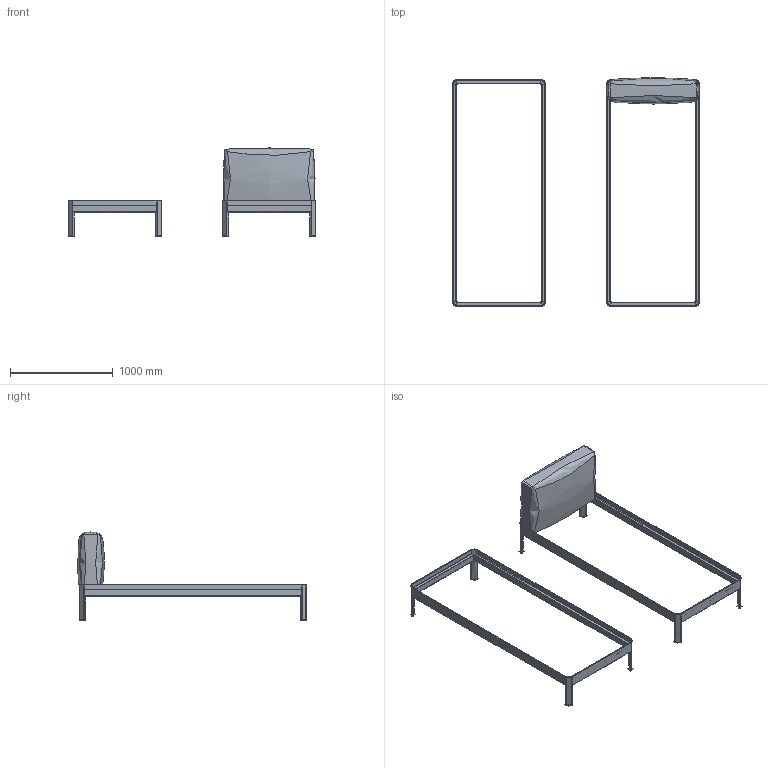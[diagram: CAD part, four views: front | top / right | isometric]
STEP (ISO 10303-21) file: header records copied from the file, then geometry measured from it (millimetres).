
FILE_DESCRIPTION(/* description */ (''),/* implementation_level */ '2;1');
FILE_NAME(/* name */ 'Heia_90x220',/* time_stamp */ '2025-10-15T11:12:45+02:00',/* author */ (''),/* organization */ (''),/* preprocessor_version */ 'ST-DEVELOPER v16.5',/* originating_system */ 'Rhino 7.38',/* authorisation */ '');
FILE_SCHEMA (('CONFIG_CONTROL_DESIGN'));
Length unit declared in the file: millimetre
Products named in the file (1): Document
Bounding box: 2411 x 2229.26 x 857.55 mm (x, y, z)
Volume: 151050288.4 mm3; surface area: 5875993.2 mm2
Topology: 25 solids, 25 shells, 646 faces, 1572 edges, 972 vertices
Faces by surface type: plane 273, cylinder 248, bspline 125
Entity records: 18862 total; most frequent: CARTESIAN_POINT 8876, ORIENTED_EDGE 3136, EDGE_CURVE 1568, VERTEX_POINT 972, EDGE_LOOP 662, ADVANCED_FACE 646, FACE_OUTER_BOUND 646, B_SPLINE_CURVE_WITH_KNOTS 632
